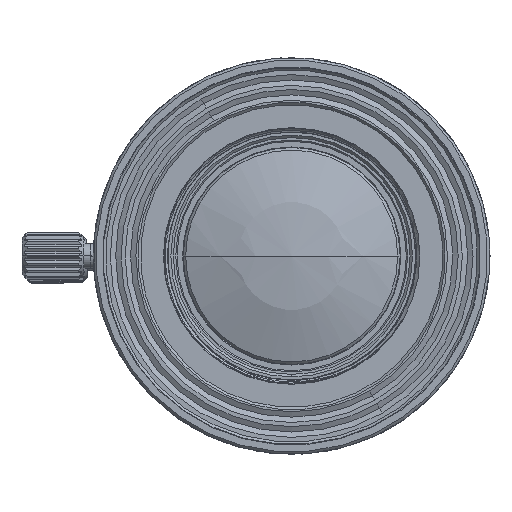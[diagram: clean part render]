
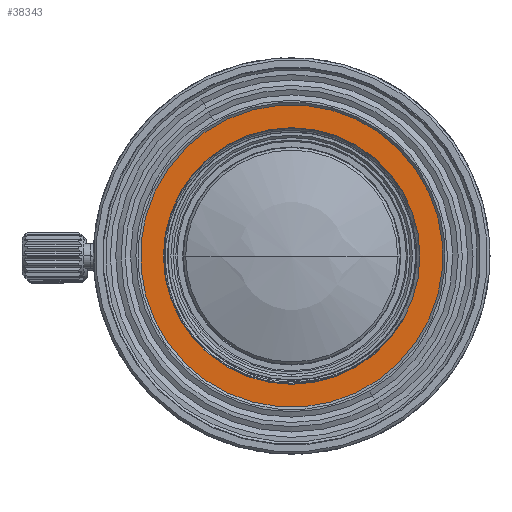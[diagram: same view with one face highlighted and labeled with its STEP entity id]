
A CAD part, left-side view. The second image highlights one B-rep face of the part: STEP entity #38343.
In plain terms, the highlighted planar face has unit normal (-1, 0, 0).
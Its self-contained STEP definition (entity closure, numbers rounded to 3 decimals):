
#8268=CARTESIAN_POINT('',(-17.096,0.,
0.));
#8269=DIRECTION('',(1.,0.,0.));
#8270=DIRECTION('',(0.,-0.708,0.707));
#8271=AXIS2_PLACEMENT_3D('',#8268,#8269,#8270);
#8273=CARTESIAN_POINT('',(-17.096,0.,
0.));
#8274=DIRECTION('',(1.,0.,0.));
#8275=DIRECTION('',(0.,0.708,-0.707));
#8276=AXIS2_PLACEMENT_3D('',#8273,#8274,#8275);
#8278=CARTESIAN_POINT('',(-17.096,0.,0.));
#8279=DIRECTION('',(-1.,0.,0.));
#8280=DIRECTION('',(0.,0.,1.));
#8281=AXIS2_PLACEMENT_3D('',#8278,#8279,#8280);
#8283=CARTESIAN_POINT('',(-17.096,0.,0.));
#8284=DIRECTION('',(-1.,0.,0.));
#8285=DIRECTION('',(0.,0.,-1.));
#8286=AXIS2_PLACEMENT_3D('',#8283,#8284,#8285);
#26829=CARTESIAN_POINT('',(-17.096,-8.632,
8.622));
#26830=CARTESIAN_POINT('',(-17.096,8.632,
-8.622));
#26831=VERTEX_POINT('',#26829);
#26832=VERTEX_POINT('',#26830);
#26833=CARTESIAN_POINT('',(-17.096,0.,
10.35));
#26834=CARTESIAN_POINT('',(-17.096,0.,
-10.35));
#26835=VERTEX_POINT('',#26833);
#26836=VERTEX_POINT('',#26834);
#38327=CARTESIAN_POINT('',(-17.096,0.,0.));
#38328=DIRECTION('',(1.,0.,0.));
#38329=DIRECTION('',(0.,0.,1.));
#38330=AXIS2_PLACEMENT_3D('',#38327,#38328,#38329);
#38331=PLANE('',#38330);
#38332=ORIENTED_EDGE('',*,*,#38316,.T.);
#38334=ORIENTED_EDGE('',*,*,#38333,.T.);
#38335=EDGE_LOOP('',(#38332,#38334));
#38336=FACE_OUTER_BOUND('',#38335,.F.);
#38338=ORIENTED_EDGE('',*,*,#38337,.T.);
#38340=ORIENTED_EDGE('',*,*,#38339,.T.);
#38341=EDGE_LOOP('',(#38338,#38340));
#38342=FACE_BOUND('',#38341,.F.);
#38343=ADVANCED_FACE('',(#38336,#38342),#38331,.F.);
#8272=CIRCLE('',#8271,12.2);
#8277=CIRCLE('',#8276,12.2);
#8282=CIRCLE('',#8281,10.35);
#8287=CIRCLE('',#8286,10.35);
#38316=EDGE_CURVE('',#26831,#26832,#8272,.T.);
#38333=EDGE_CURVE('',#26832,#26831,#8277,.T.);
#38337=EDGE_CURVE('',#26835,#26836,#8282,.T.);
#38339=EDGE_CURVE('',#26836,#26835,#8287,.T.);
